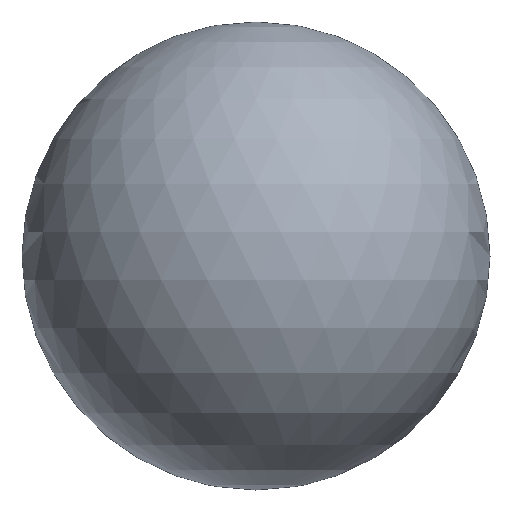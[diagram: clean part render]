
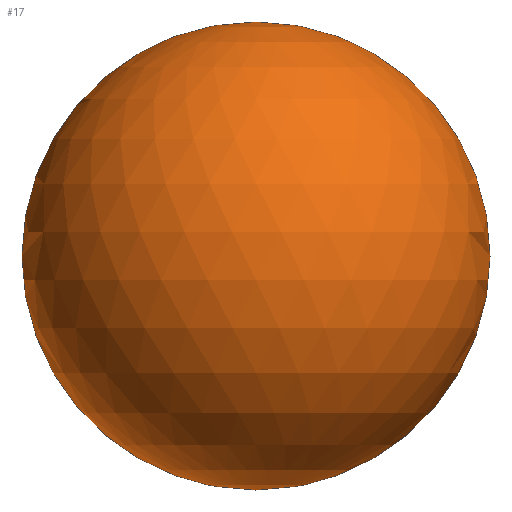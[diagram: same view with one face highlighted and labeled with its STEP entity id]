
A CAD part, front view. The second image highlights one B-rep face of the part: STEP entity #17.
In plain terms, the highlighted spherical face has radius 58 mm.
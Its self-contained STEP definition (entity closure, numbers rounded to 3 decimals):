
#17 = ADVANCED_FACE('',(#18),#33,.T.);
#18 = FACE_BOUND('',#19,.T.);
#19 = EDGE_LOOP('',(#20,#55));
#20 = ORIENTED_EDGE('',*,*,#21,.T.);
#21 = EDGE_CURVE('',#22,#24,#26,.T.);
#22 = VERTEX_POINT('',#23);
#23 = CARTESIAN_POINT('',(0.,-196.9,-58.));
#24 = VERTEX_POINT('',#25);
#25 = CARTESIAN_POINT('',(0.,-196.9,58.));
#26 = SURFACE_CURVE('',#27,(#32,#43),.PCURVE_S1.);
#27 = CIRCLE('',#28,58.);
#28 = AXIS2_PLACEMENT_3D('',#29,#30,#31);
#29 = CARTESIAN_POINT('',(0.,-196.9,0.));
#30 = DIRECTION('',(0.,-1.,0.));
#31 = DIRECTION('',(0.,-0.,-1.));
#32 = PCURVE('',#33,#38);
#33 = SPHERICAL_SURFACE('',#34,58.);
#34 = AXIS2_PLACEMENT_3D('',#35,#36,#37);
#35 = CARTESIAN_POINT('',(0.,-196.9,0.));
#36 = DIRECTION('',(0.,0.,1.));
#37 = DIRECTION('',(1.,0.,-0.));
#38 = DEFINITIONAL_REPRESENTATION('',(#39),#42);
#39 = B_SPLINE_CURVE_WITH_KNOTS('',1,(#40,#41),.UNSPECIFIED.,.F.,.F.,(2,
    2),(0.,3.142),.PIECEWISE_BEZIER_KNOTS.);
#40 = CARTESIAN_POINT('',(6.283,-1.571));
#41 = CARTESIAN_POINT('',(6.283,1.571));
#42 = ( GEOMETRIC_REPRESENTATION_CONTEXT(2) 
PARAMETRIC_REPRESENTATION_CONTEXT() REPRESENTATION_CONTEXT('2D SPACE',''
  ) );
#43 = PCURVE('',#44,#49);
#44 = CYLINDRICAL_SURFACE('',#45,58.);
#45 = AXIS2_PLACEMENT_3D('',#46,#47,#48);
#46 = CARTESIAN_POINT('',(0.,-186.9,0.));
#47 = DIRECTION('',(0.,-1.,0.));
#48 = DIRECTION('',(0.,-0.,-1.));
#49 = DEFINITIONAL_REPRESENTATION('',(#50),#54);
#50 = LINE('',#51,#52);
#51 = CARTESIAN_POINT('',(0.,10.));
#52 = VECTOR('',#53,1.);
#53 = DIRECTION('',(1.,0.));
#54 = ( GEOMETRIC_REPRESENTATION_CONTEXT(2) 
PARAMETRIC_REPRESENTATION_CONTEXT() REPRESENTATION_CONTEXT('2D SPACE',''
  ) );
#55 = ORIENTED_EDGE('',*,*,#56,.T.);
#56 = EDGE_CURVE('',#24,#22,#57,.T.);
#57 = SURFACE_CURVE('',#58,(#63,#70),.PCURVE_S1.);
#58 = CIRCLE('',#59,58.);
#59 = AXIS2_PLACEMENT_3D('',#60,#61,#62);
#60 = CARTESIAN_POINT('',(0.,-196.9,0.));
#61 = DIRECTION('',(0.,-1.,0.));
#62 = DIRECTION('',(0.,-0.,-1.));
#63 = PCURVE('',#33,#64);
#64 = DEFINITIONAL_REPRESENTATION('',(#65),#69);
#65 = LINE('',#66,#67);
#66 = CARTESIAN_POINT('',(3.142,4.712));
#67 = VECTOR('',#68,1.);
#68 = DIRECTION('',(0.,-1.));
#69 = ( GEOMETRIC_REPRESENTATION_CONTEXT(2) 
PARAMETRIC_REPRESENTATION_CONTEXT() REPRESENTATION_CONTEXT('2D SPACE',''
  ) );
#70 = PCURVE('',#44,#71);
#71 = DEFINITIONAL_REPRESENTATION('',(#72),#76);
#72 = LINE('',#73,#74);
#73 = CARTESIAN_POINT('',(0.,10.));
#74 = VECTOR('',#75,1.);
#75 = DIRECTION('',(1.,0.));
#76 = ( GEOMETRIC_REPRESENTATION_CONTEXT(2) 
PARAMETRIC_REPRESENTATION_CONTEXT() REPRESENTATION_CONTEXT('2D SPACE',''
  ) );
